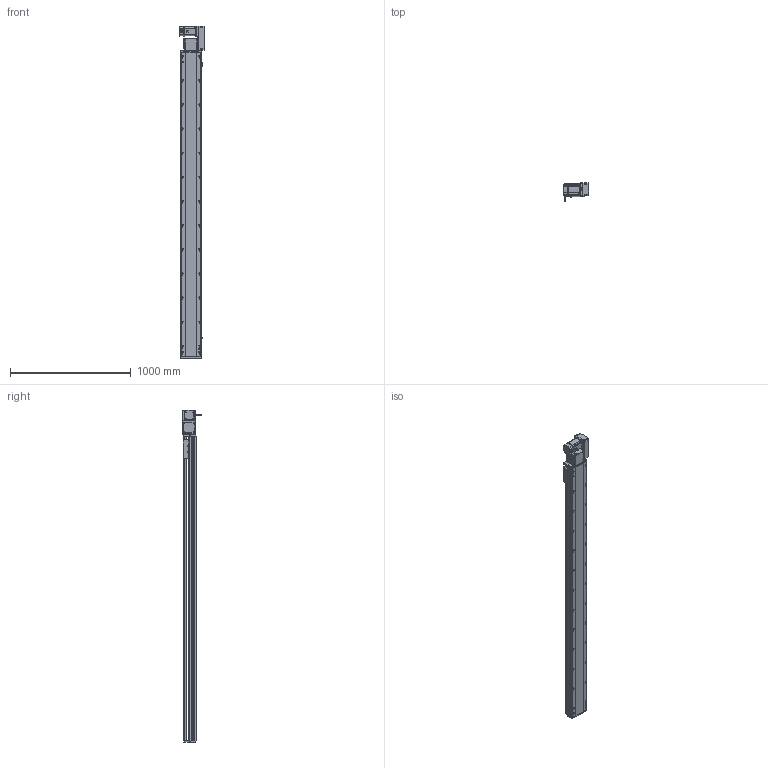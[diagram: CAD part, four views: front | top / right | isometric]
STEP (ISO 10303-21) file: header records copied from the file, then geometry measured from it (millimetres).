
FILE_DESCRIPTION (( 'STEP AP214' ), '1' );
FILE_NAME ('RTB17S-XX-2250-R-M75-C4.STEP', '2025-12-12T01:45:46', ( '' ), ( '' ), 'SwSTEP 2.0', 'SolidWorks 2018', '' );
FILE_SCHEMA (( 'AUTOMOTIVE_DESIGN' ));
Length unit declared in the file: millimetre
Products named in the file (15): RTB17S-L-007奻裔^RTB17S-XX-XX-R-M75-C4; RTB17S-賑釱^RTB17S-XX-XX-R-M75-C4; 750W萇儂^RTB17S-XX-XX-R-M75-C4; RTH13-BL-012覜茼え俋离^RTB17S-賑釱_RTB17S-XX-XX-R-M75-C4; RTB17S-XX-2250-R-M75-C4; EE672^RTB17S-XX-XX-R-M75-C4; RTB17S-L-004-賑釱^RTB17S-賑釱_RTB17S-XX-XX-R-M75-C4; RTB22S-GY-018P^RTB17S-R-々湍釱蚾饜-750W_RTB17S-XX-XX-R-M75-C4; RTB17S-L-001-耜醱啣^RTB17S-XX-XX-R-M75-C4; RTB17-R-011菁釱^RTB17S-XX-XX-R-M75-C4; RTB22S-GY-005P^RTB17S-R-々湍釱蚾饜-750W_RTB17S-XX-XX-R-M75-C4; RTB22S-GY-008-M75--萇儂啣^RTB17S-R-々湍釱蚾饜-750W_RTB17S-XX-XX-R-M75-C4; RTB17S-L-014-T20-P75--々湍釱^RTB17S-R-々湍釱蚾饜-750W_RTB17S-XX-XX-R-M75-C4; RTB22S-GY-017P^RTB17S-R-々湍釱蚾饜-750W_RTB17S-XX-XX-R-M75-C4; RTB17S-R-々湍釱蚾饜-750W^RTB17S-XX-XX-R-M75-C4
Assembly tree (17 placements, depth 3):
  RTB17S-XX-2250-R-M75-C4
    RTB17-R-011菁釱^RTB17S-XX-XX-R-M75-C4
    EE672^RTB17S-XX-XX-R-M75-C4  x3
    RTB17S-L-001-耜醱啣^RTB17S-XX-XX-R-M75-C4
    RTB17S-賑釱^RTB17S-XX-XX-R-M75-C4
      RTB17S-L-004-賑釱^RTB17S-賑釱_RTB17S-XX-XX-R-M75-C4
      RTH13-BL-012覜茼え俋离^RTB17S-賑釱_RTB17S-XX-XX-R-M75-C4
    RTB17S-L-007奻裔^RTB17S-XX-XX-R-M75-C4
    750W萇儂^RTB17S-XX-XX-R-M75-C4
    RTB17S-R-々湍釱蚾饜-750W^RTB17S-XX-XX-R-M75-C4
      RTB17S-L-014-T20-P75--々湍釱^RTB17S-R-々湍釱蚾饜-750W_RTB17S-XX-XX-R-M75-C4
      RTB22S-GY-005P^RTB17S-R-々湍釱蚾饜-750W_RTB17S-XX-XX-R-M75-C4
      RTB22S-GY-017P^RTB17S-R-々湍釱蚾饜-750W_RTB17S-XX-XX-R-M75-C4  x2
      RTB22S-GY-008-M75--萇儂啣^RTB17S-R-々湍釱蚾饜-750W_RTB17S-XX-XX-R-M75-C4
      RTB22S-GY-018P^RTB17S-R-々湍釱蚾饜-750W_RTB17S-XX-XX-R-M75-C4
Bounding box: 207.4 x 152.7 x 2749 mm (x, y, z)
Volume: 20009845.4 mm3; surface area: 3608129.2 mm2
Topology: 17 solids, 17 shells, 2201 faces, 6160 edges, 3986 vertices
Faces by surface type: plane 984, cylinder 801, bspline 294, cone 110, sphere 8, torus 4
Entity records: 63478 total; most frequent: CARTESIAN_POINT 18824, ORIENTED_EDGE 9164, DIRECTION 8492, EDGE_CURVE 4582, AXIS2_PLACEMENT_3D 3006, VERTEX_POINT 2990, LINE 2480, VECTOR 2480
